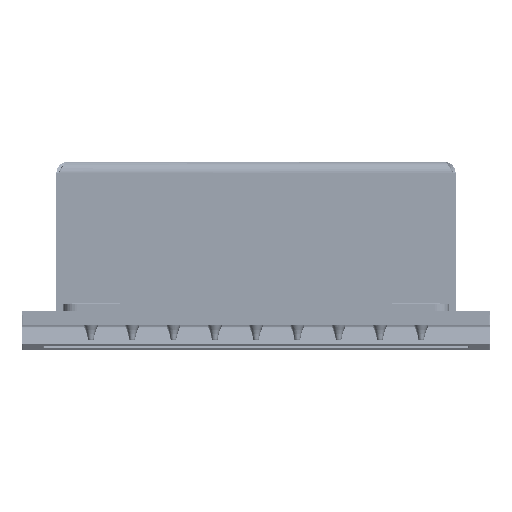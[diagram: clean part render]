
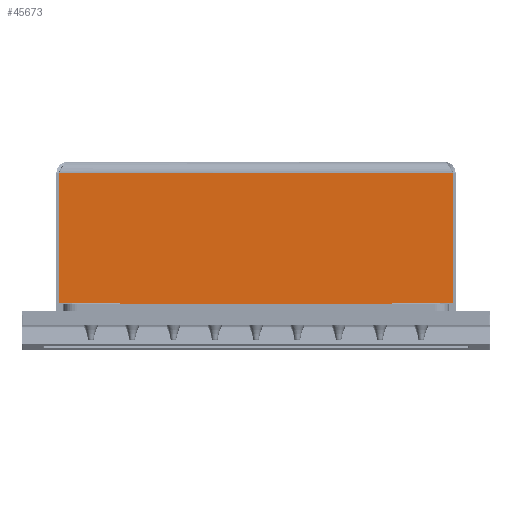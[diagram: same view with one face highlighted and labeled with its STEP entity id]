
A CAD part, top view. The second image highlights one B-rep face of the part: STEP entity #45673.
In plain terms, the highlighted planar face has unit normal (0, 0, 1).
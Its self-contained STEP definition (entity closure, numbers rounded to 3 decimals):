
#2671=DIRECTION('',(1.,0.,0.));
#2672=VECTOR('',#2671,99.);
#2673=CARTESIAN_POINT('',(-49.5,8.,31.));
#2674=LINE('',#2673,#2672);
#2675=DIRECTION('',(1.,0.,0.));
#2676=VECTOR('',#2675,21.9);
#2677=CARTESIAN_POINT('',(-71.4,8.5,31.));
#2678=LINE('',#2677,#2676);
#2679=DIRECTION('',(0.,1.,0.));
#2680=VECTOR('',#2679,47.2);
#2681=CARTESIAN_POINT('',(71.4,8.5,31.));
#2682=LINE('',#2681,#2680);
#2683=DIRECTION('',(1.,0.,0.));
#2684=VECTOR('',#2683,21.9);
#2685=CARTESIAN_POINT('',(49.5,8.5,31.));
#2686=LINE('',#2685,#2684);
#3195=DIRECTION('',(0.,-1.,0.));
#3196=VECTOR('',#3195,0.5);
#3197=CARTESIAN_POINT('',(49.5,8.5,31.));
#3198=LINE('',#3197,#3196);
#3223=DIRECTION('',(0.,1.,0.));
#3224=VECTOR('',#3223,47.2);
#3225=CARTESIAN_POINT('',(-71.4,8.5,31.));
#3226=LINE('',#3225,#3224);
#3243=DIRECTION('',(0.,1.,0.));
#3244=VECTOR('',#3243,0.5);
#3245=CARTESIAN_POINT('',(-49.5,8.,31.));
#3246=LINE('',#3245,#3244);
#4541=DIRECTION('',(1.,0.,0.));
#4542=VECTOR('',#4541,142.8);
#4543=CARTESIAN_POINT('',(-71.4,55.7,31.));
#4544=LINE('',#4543,#4542);
#42316=CARTESIAN_POINT('',(-71.4,8.5,31.));
#42317=VERTEX_POINT('',#42316);
#42320=CARTESIAN_POINT('',(-49.5,8.5,31.));
#42321=VERTEX_POINT('',#42320);
#42340=CARTESIAN_POINT('',(71.4,55.7,31.));
#42341=VERTEX_POINT('',#42340);
#42343=CARTESIAN_POINT('',(-71.4,55.7,31.));
#42345=VERTEX_POINT('',#42343);
#42348=CARTESIAN_POINT('',(49.5,8.5,31.));
#42349=VERTEX_POINT('',#42348);
#42350=CARTESIAN_POINT('',(71.4,8.5,31.));
#42351=VERTEX_POINT('',#42350);
#42963=CARTESIAN_POINT('',(-49.5,8.,31.));
#42964=CARTESIAN_POINT('',(49.5,8.,31.));
#42965=VERTEX_POINT('',#42963);
#42966=VERTEX_POINT('',#42964);
#45651=CARTESIAN_POINT('',(-4.274,59.,31.));
#45652=DIRECTION('',(0.,0.,1.));
#45653=DIRECTION('',(0.,1.,0.));
#45654=AXIS2_PLACEMENT_3D('',#45651,#45652,#45653);
#45655=PLANE('',#45654);
#45657=ORIENTED_EDGE('',*,*,#45656,.F.);
#45659=ORIENTED_EDGE('',*,*,#45658,.T.);
#45661=ORIENTED_EDGE('',*,*,#45660,.F.);
#45663=ORIENTED_EDGE('',*,*,#45662,.T.);
#45665=ORIENTED_EDGE('',*,*,#45664,.T.);
#45666=ORIENTED_EDGE('',*,*,#45641,.F.);
#45668=ORIENTED_EDGE('',*,*,#45667,.F.);
#45670=ORIENTED_EDGE('',*,*,#45669,.T.);
#45671=EDGE_LOOP('',(#45657,#45659,#45661,#45663,#45665,#45666,#45668,#45670));
#45672=FACE_OUTER_BOUND('',#45671,.F.);
#45673=ADVANCED_FACE('',(#45672),#45655,.T.);
#45641=EDGE_CURVE('',#42351,#42341,#2682,.T.);
#45656=EDGE_CURVE('',#42965,#42966,#2674,.T.);
#45658=EDGE_CURVE('',#42965,#42321,#3246,.T.);
#45660=EDGE_CURVE('',#42317,#42321,#2678,.T.);
#45662=EDGE_CURVE('',#42317,#42345,#3226,.T.);
#45664=EDGE_CURVE('',#42345,#42341,#4544,.T.);
#45667=EDGE_CURVE('',#42349,#42351,#2686,.T.);
#45669=EDGE_CURVE('',#42349,#42966,#3198,.T.);
